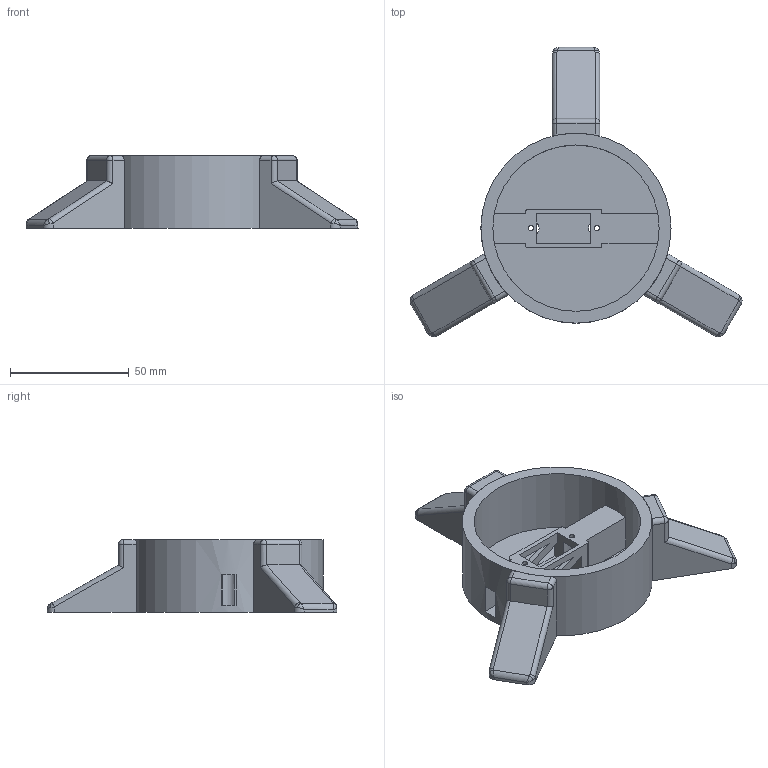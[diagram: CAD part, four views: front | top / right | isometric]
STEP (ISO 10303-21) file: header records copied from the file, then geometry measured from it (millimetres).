
FILE_DESCRIPTION(/* description */ (''),/* implementation_level */ '2;1');
FILE_NAME(/* name */ 'Base_v11.tmp.step',/* time_stamp */ '2026-11-01T13:09:01+02:00',/* author */ (''),/* organization */ (''),/* preprocessor_version */ 'ST-DEVELOPER v20.2',/* originating_system */ 'Autodesk Translation Framework v15.15.0.0',/* authorisation */ '');
FILE_SCHEMA (('AUTOMOTIVE_DESIGN { 1 0 10303 214 3 1 1 }'));
Length unit declared in the file: millimetre
Products named in the file (2): Base; Base Support
Assembly tree (3 placements, depth 2):
  Base
    Base Support  x3
Bounding box: 139.75 x 121.83 x 30.7 mm (x, y, z)
Volume: 88166.4 mm3; surface area: 38043.2 mm2
Topology: 4 solids, 4 shells, 117 faces, 309 edges, 188 vertices
Faces by surface type: plane 56, cylinder 43, bspline 12, sphere 6
Full cylindrical faces by diameter (mm): 2.2 x2, 7 x2, 70 x1, 80 x1
Entity records: 2453 total; most frequent: CARTESIAN_POINT 505, ORIENTED_EDGE 398, DIRECTION 395, EDGE_CURVE 199, LINE 139, VECTOR 139, VERTEX_POINT 128, AXIS2_PLACEMENT_3D 128
